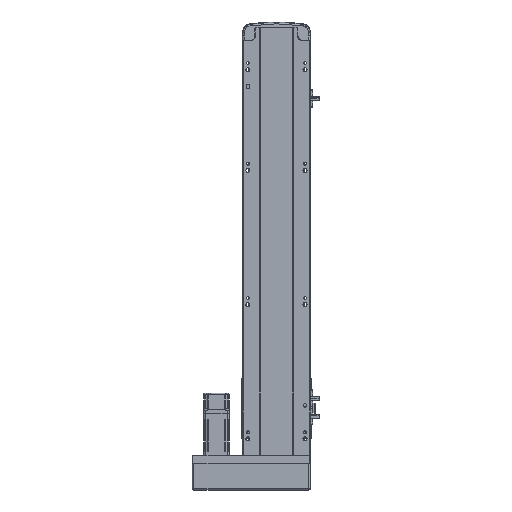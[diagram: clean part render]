
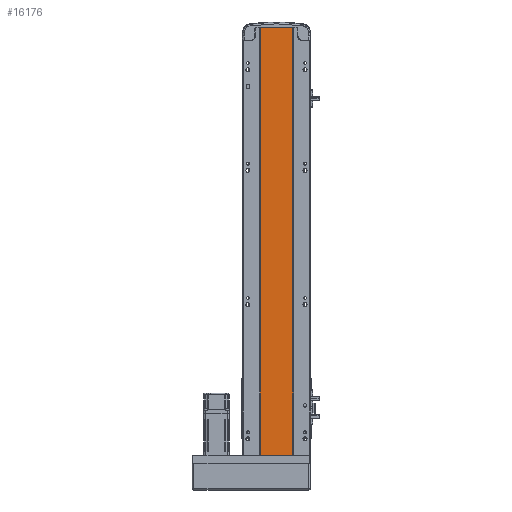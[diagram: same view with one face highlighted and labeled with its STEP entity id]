
A CAD part, front view. The second image highlights one B-rep face of the part: STEP entity #16176.
In plain terms, the highlighted planar face has unit normal (0, -1, 0).
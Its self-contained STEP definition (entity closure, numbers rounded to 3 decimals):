
#893 = ORIENTED_EDGE ( 'NONE', *, *, #7902, .T. ) ;
#1259 = CARTESIAN_POINT ( 'NONE',  ( 24.5, 2., 637. ) ) ;
#3033 = ORIENTED_EDGE ( 'NONE', *, *, #10992, .F. ) ;
#5122 = DIRECTION ( 'NONE',  ( 1., 0., 0. ) ) ;
#5192 = CARTESIAN_POINT ( 'NONE',  ( -24.5, 2., 637. ) ) ;
#6780 = CARTESIAN_POINT ( 'NONE',  ( 0., 2., 637. ) ) ;
#7206 = CARTESIAN_POINT ( 'NONE',  ( -24.5, 2., 637. ) ) ;
#7902 = EDGE_CURVE ( 'NONE', #21936, #25984, #38642, .T. ) ;
#8155 = EDGE_CURVE ( 'NONE', #25984, #10022, #22676, .T. ) ;
#8552 = CARTESIAN_POINT ( 'NONE',  ( 24.5, 2., 0. ) ) ;
#10022 = VERTEX_POINT ( 'NONE', #8552 ) ;
#10992 = EDGE_CURVE ( 'NONE', #33876, #10022, #49505, .T. ) ;
#12102 = DIRECTION ( 'NONE',  ( 0., 0., -1. ) ) ;
#13157 = CARTESIAN_POINT ( 'NONE',  ( -24.5, 2., 0. ) ) ;
#16176 = ADVANCED_FACE ( 'NONE', ( #19761 ), #42176, .F. ) ;
#16501 = CARTESIAN_POINT ( 'NONE',  ( -24.5, 2., 637. ) ) ;
#16520 = ORIENTED_EDGE ( 'NONE', *, *, #31972, .F. ) ;
#19761 = FACE_OUTER_BOUND ( 'NONE', #50259, .T. ) ;
#21936 = VERTEX_POINT ( 'NONE', #7206 ) ;
#22676 = LINE ( 'NONE', #49022, #29590 ) ;
#24814 = ORIENTED_EDGE ( 'NONE', *, *, #8155, .T. ) ;
#25553 = DIRECTION ( 'NONE',  ( 1., 0., 0. ) ) ;
#25984 = VERTEX_POINT ( 'NONE', #13157 ) ;
#29590 = VECTOR ( 'NONE', #5122, 1000. ) ;
#31960 = AXIS2_PLACEMENT_3D ( 'NONE', #6780, #38072, #55341 ) ;
#31972 = EDGE_CURVE ( 'NONE', #21936, #33876, #39810, .T. ) ;
#33876 = VERTEX_POINT ( 'NONE', #1259 ) ;
#34441 = VECTOR ( 'NONE', #40558, 1000. ) ;
#38072 = DIRECTION ( 'NONE',  ( 0., 1., 0. ) ) ;
#38427 = VECTOR ( 'NONE', #25553, 1000. ) ;
#38642 = LINE ( 'NONE', #5192, #34441 ) ;
#39810 = LINE ( 'NONE', #16501, #38427 ) ;
#40558 = DIRECTION ( 'NONE',  ( 0., 0., -1. ) ) ;
#42176 = PLANE ( 'NONE',  #31960 ) ;
#47365 = VECTOR ( 'NONE', #12102, 1000. ) ;
#49022 = CARTESIAN_POINT ( 'NONE',  ( 0., 2., 0. ) ) ;
#49505 = LINE ( 'NONE', #56219, #47365 ) ;
#50259 = EDGE_LOOP ( 'NONE', ( #24814, #3033, #16520, #893 ) ) ;
#55341 = DIRECTION ( 'NONE',  ( 0., 0., 1. ) ) ;
#56219 = CARTESIAN_POINT ( 'NONE',  ( 24.5, 2., 637. ) ) ;
